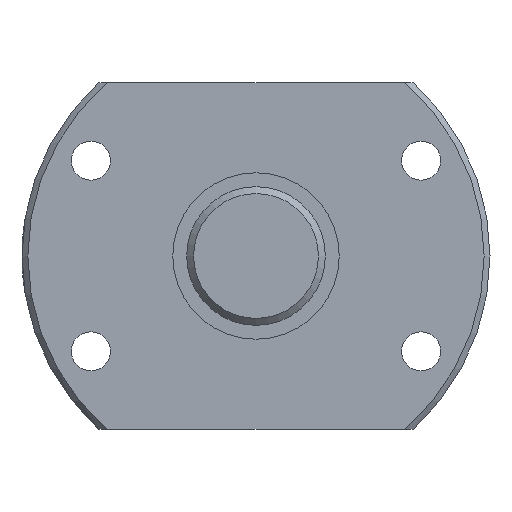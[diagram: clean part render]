
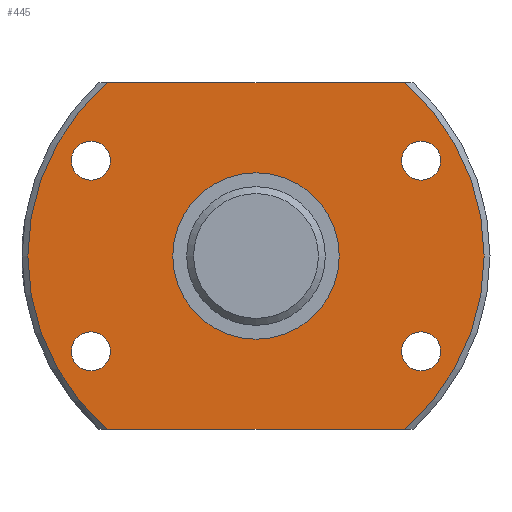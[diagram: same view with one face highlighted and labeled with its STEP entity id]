
A CAD part, left-side view. The second image highlights one B-rep face of the part: STEP entity #445.
In plain terms, the highlighted planar face has unit normal (-1, 0, 0).
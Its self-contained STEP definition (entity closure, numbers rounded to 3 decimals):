
#32=LINE('',#786,#40);
#33=LINE('',#790,#41);
#40=VECTOR('',#613,1000.);
#41=VECTOR('',#616,1000.);
#66=PLANE('',#515);
#102=ORIENTED_EDGE('',*,*,#196,.T.);
#103=ORIENTED_EDGE('',*,*,#197,.F.);
#104=ORIENTED_EDGE('',*,*,#198,.F.);
#105=ORIENTED_EDGE('',*,*,#199,.F.);
#106=ORIENTED_EDGE('',*,*,#186,.F.);
#107=ORIENTED_EDGE('',*,*,#200,.T.);
#108=ORIENTED_EDGE('',*,*,#201,.T.);
#109=ORIENTED_EDGE('',*,*,#202,.T.);
#110=ORIENTED_EDGE('',*,*,#203,.T.);
#186=EDGE_CURVE('',#234,#235,#273,.T.);
#196=EDGE_CURVE('',#244,#244,#278,.T.);
#197=EDGE_CURVE('',#245,#234,#32,.T.);
#198=EDGE_CURVE('',#246,#245,#279,.T.);
#199=EDGE_CURVE('',#235,#246,#33,.T.);
#200=EDGE_CURVE('',#247,#247,#280,.T.);
#201=EDGE_CURVE('',#248,#248,#281,.T.);
#202=EDGE_CURVE('',#249,#249,#282,.T.);
#203=EDGE_CURVE('',#250,#250,#283,.T.);
#234=VERTEX_POINT('',#738);
#235=VERTEX_POINT('',#740);
#244=VERTEX_POINT('',#785);
#245=VERTEX_POINT('',#787);
#246=VERTEX_POINT('',#789);
#247=VERTEX_POINT('',#792);
#248=VERTEX_POINT('',#794);
#249=VERTEX_POINT('',#796);
#250=VERTEX_POINT('',#798);
#273=CIRCLE('',#508,26.325);
#278=CIRCLE('',#516,9.6);
#279=CIRCLE('',#517,26.325);
#280=CIRCLE('',#518,2.25);
#281=CIRCLE('',#519,2.25);
#282=CIRCLE('',#520,2.25);
#283=CIRCLE('',#521,2.25);
#314=EDGE_LOOP('',(#102));
#315=EDGE_LOOP('',(#103,#104,#105,#106));
#316=EDGE_LOOP('',(#107));
#317=EDGE_LOOP('',(#108));
#318=EDGE_LOOP('',(#109));
#319=EDGE_LOOP('',(#110));
#376=FACE_BOUND('',#314,.T.);
#377=FACE_BOUND('',#315,.T.);
#378=FACE_BOUND('',#316,.T.);
#379=FACE_BOUND('',#317,.T.);
#380=FACE_BOUND('',#318,.T.);
#381=FACE_BOUND('',#319,.T.);
#445=ADVANCED_FACE('',(#376,#377,#378,#379,#380,#381),#66,.T.);
#508=AXIS2_PLACEMENT_3D('',#739,#593,#594);
#515=AXIS2_PLACEMENT_3D('',#783,#609,#610);
#516=AXIS2_PLACEMENT_3D('',#784,#611,#612);
#517=AXIS2_PLACEMENT_3D('',#788,#614,#615);
#518=AXIS2_PLACEMENT_3D('',#791,#617,#618);
#519=AXIS2_PLACEMENT_3D('',#793,#619,#620);
#520=AXIS2_PLACEMENT_3D('',#795,#621,#622);
#521=AXIS2_PLACEMENT_3D('',#797,#623,#624);
#593=DIRECTION('',(1.,0.,0.));
#594=DIRECTION('',(0.,0.,-1.));
#609=DIRECTION('',(-1.,0.,0.));
#610=DIRECTION('',(0.,0.,1.));
#611=DIRECTION('',(1.,0.,0.));
#612=DIRECTION('',(0.,0.,-1.));
#613=DIRECTION('',(0.,-1.,0.));
#614=DIRECTION('',(1.,0.,0.));
#615=DIRECTION('',(0.,0.,-1.));
#616=DIRECTION('',(0.,1.,0.));
#617=DIRECTION('',(1.,0.,0.));
#618=DIRECTION('',(0.,0.,-1.));
#619=DIRECTION('',(1.,0.,0.));
#620=DIRECTION('',(0.,0.,-1.));
#621=DIRECTION('',(1.,0.,0.));
#622=DIRECTION('',(0.,0.,-1.));
#623=DIRECTION('',(1.,0.,0.));
#624=DIRECTION('',(0.,0.,-1.));
#738=CARTESIAN_POINT('',(0.,-17.117,20.));
#739=CARTESIAN_POINT('',(0.,0.,0.));
#740=CARTESIAN_POINT('',(0.,-17.117,-20.));
#783=CARTESIAN_POINT('',(0.,26.325,0.));
#784=CARTESIAN_POINT('',(0.,0.,0.));
#785=CARTESIAN_POINT('',(0.,0.,-9.6));
#786=CARTESIAN_POINT('',(0.,27.1,20.));
#787=CARTESIAN_POINT('',(0.,17.117,20.));
#788=CARTESIAN_POINT('',(0.,0.,0.));
#789=CARTESIAN_POINT('',(0.,17.117,-20.));
#790=CARTESIAN_POINT('',(0.,-27.1,-20.));
#791=CARTESIAN_POINT('',(0.,-19.053,11.));
#792=CARTESIAN_POINT('',(0.,-19.053,8.75));
#793=CARTESIAN_POINT('',(0.,-19.053,-11.));
#794=CARTESIAN_POINT('',(0.,-19.053,-13.25));
#795=CARTESIAN_POINT('',(0.,19.053,-11.));
#796=CARTESIAN_POINT('',(0.,19.053,-13.25));
#797=CARTESIAN_POINT('',(0.,19.053,11.));
#798=CARTESIAN_POINT('',(0.,19.053,8.75));
